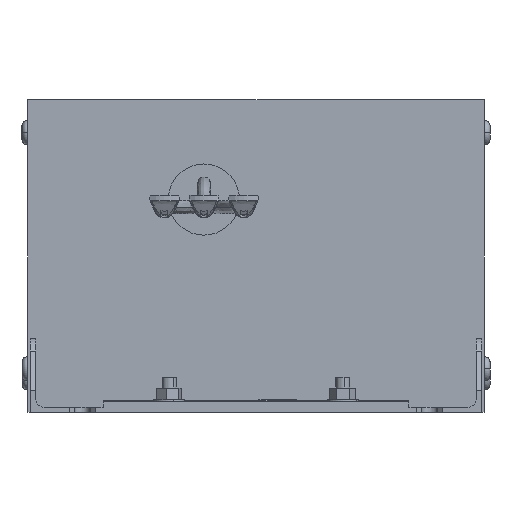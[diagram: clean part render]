
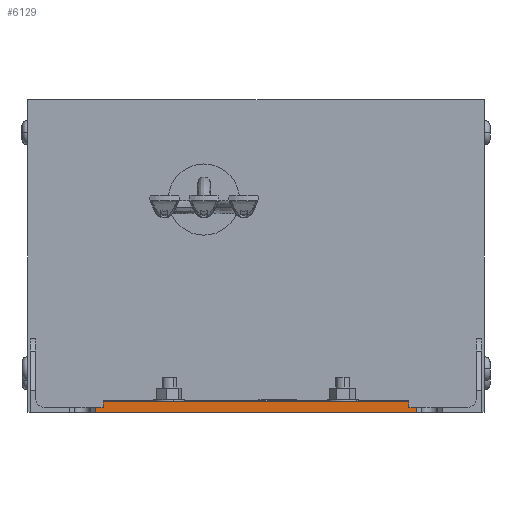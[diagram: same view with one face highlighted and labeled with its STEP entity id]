
A CAD part, front view. The second image highlights one B-rep face of the part: STEP entity #6129.
In plain terms, the highlighted planar face has unit normal (0, -1, 0).
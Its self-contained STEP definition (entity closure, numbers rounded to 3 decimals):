
#1135 = CARTESIAN_POINT ( 'NONE',  ( -92.5, -615., -3. ) ) ;
#1282 = CARTESIAN_POINT ( 'NONE',  ( -92.5, -615., -3. ) ) ;
#1389 = CARTESIAN_POINT ( 'NONE',  ( -88., -615., 3. ) ) ;
#1984 = CARTESIAN_POINT ( 'NONE',  ( -95.5, -615., 0. ) ) ;
#2490 = EDGE_CURVE ( 'NONE', #15702, #10929, #7225, .T. ) ;
#2874 = EDGE_CURVE ( 'NONE', #15702, #5197, #17288, .T. ) ;
#3192 = VERTEX_POINT ( 'NONE', #9227 ) ;
#3569 = CARTESIAN_POINT ( 'NONE',  ( 88., -615., 3. ) ) ;
#3728 = LINE ( 'NONE', #10362, #17619 ) ;
#3794 = VECTOR ( 'NONE', #8088, 1000. ) ;
#4901 = ORIENTED_EDGE ( 'NONE', *, *, #20501, .T. ) ;
#5197 = VERTEX_POINT ( 'NONE', #16920 ) ;
#5528 = AXIS2_PLACEMENT_3D ( 'NONE', #18291, #20847, #22460 ) ;
#6129 = ADVANCED_FACE ( 'NONE', ( #21762 ), #12943, .F. ) ;
#7225 = LINE ( 'NONE', #1984, #15065 ) ;
#8026 = DIRECTION ( 'NONE',  ( 1., 0., 0. ) ) ;
#8088 = DIRECTION ( 'NONE',  ( 1., 0., 0. ) ) ;
#8110 = ORIENTED_EDGE ( 'NONE', *, *, #11594, .T. ) ;
#8242 = VECTOR ( 'NONE', #17397, 1000. ) ;
#8282 = VECTOR ( 'NONE', #11826, 1000. ) ;
#9166 = CARTESIAN_POINT ( 'NONE',  ( 92.5, -615., -3. ) ) ;
#9227 = CARTESIAN_POINT ( 'NONE',  ( -92.5, -615., 0. ) ) ;
#9294 = ORIENTED_EDGE ( 'NONE', *, *, #10661, .T. ) ;
#10102 = VERTEX_POINT ( 'NONE', #10736 ) ;
#10362 = CARTESIAN_POINT ( 'NONE',  ( -88., -615., 3. ) ) ;
#10477 = DIRECTION ( 'NONE',  ( 0., 0., -1. ) ) ;
#10661 = EDGE_CURVE ( 'NONE', #22659, #11730, #18583, .T. ) ;
#10736 = CARTESIAN_POINT ( 'NONE',  ( -88., -615., 3. ) ) ;
#10794 = EDGE_LOOP ( 'NONE', ( #15653, #8110, #13834, #19371, #4901, #9294, #22772, #13439 ) ) ;
#10929 = VERTEX_POINT ( 'NONE', #14261 ) ;
#11068 = EDGE_CURVE ( 'NONE', #3192, #16822, #15054, .T. ) ;
#11594 = EDGE_CURVE ( 'NONE', #5197, #10102, #15767, .T. ) ;
#11730 = VERTEX_POINT ( 'NONE', #16753 ) ;
#11826 = DIRECTION ( 'NONE',  ( 0., 0., -1. ) ) ;
#12386 = DIRECTION ( 'NONE',  ( 0., 0., 1. ) ) ;
#12943 = PLANE ( 'NONE',  #5528 ) ;
#13428 = LINE ( 'NONE', #1135, #8282 ) ;
#13439 = ORIENTED_EDGE ( 'NONE', *, *, #2490, .F. ) ;
#13815 = VECTOR ( 'NONE', #16240, 1000. ) ;
#13834 = ORIENTED_EDGE ( 'NONE', *, *, #15292, .T. ) ;
#14261 = CARTESIAN_POINT ( 'NONE',  ( 92.5, -615., 0. ) ) ;
#14294 = DIRECTION ( 'NONE',  ( 1., 0., 0. ) ) ;
#14932 = CARTESIAN_POINT ( 'NONE',  ( -95.5, -615., 0. ) ) ;
#15054 = LINE ( 'NONE', #14932, #3794 ) ;
#15065 = VECTOR ( 'NONE', #14294, 1000. ) ;
#15273 = VECTOR ( 'NONE', #8026, 1000. ) ;
#15292 = EDGE_CURVE ( 'NONE', #10102, #16822, #3728, .T. ) ;
#15638 = CARTESIAN_POINT ( 'NONE',  ( 88., -615., 0. ) ) ;
#15653 = ORIENTED_EDGE ( 'NONE', *, *, #2874, .T. ) ;
#15702 = VERTEX_POINT ( 'NONE', #15638 ) ;
#15767 = LINE ( 'NONE', #1389, #8242 ) ;
#16135 = LINE ( 'NONE', #9166, #13815 ) ;
#16240 = DIRECTION ( 'NONE',  ( 0., 0., 1. ) ) ;
#16612 = CARTESIAN_POINT ( 'NONE',  ( -95.5, -615., -3. ) ) ;
#16753 = CARTESIAN_POINT ( 'NONE',  ( 92.5, -615., -3. ) ) ;
#16822 = VERTEX_POINT ( 'NONE', #17888 ) ;
#16920 = CARTESIAN_POINT ( 'NONE',  ( 88., -615., 3. ) ) ;
#17288 = LINE ( 'NONE', #3569, #22500 ) ;
#17397 = DIRECTION ( 'NONE',  ( -1., 0., 0. ) ) ;
#17619 = VECTOR ( 'NONE', #10477, 1000. ) ;
#17888 = CARTESIAN_POINT ( 'NONE',  ( -88., -615., 0. ) ) ;
#18291 = CARTESIAN_POINT ( 'NONE',  ( -88., -615., 0. ) ) ;
#18583 = LINE ( 'NONE', #16612, #15273 ) ;
#19070 = EDGE_CURVE ( 'NONE', #11730, #10929, #16135, .T. ) ;
#19371 = ORIENTED_EDGE ( 'NONE', *, *, #11068, .F. ) ;
#20501 = EDGE_CURVE ( 'NONE', #3192, #22659, #13428, .T. ) ;
#20847 = DIRECTION ( 'NONE',  ( 0., 1., 0. ) ) ;
#21762 = FACE_OUTER_BOUND ( 'NONE', #10794, .T. ) ;
#22460 = DIRECTION ( 'NONE',  ( -1., 0., 0. ) ) ;
#22500 = VECTOR ( 'NONE', #12386, 1000. ) ;
#22659 = VERTEX_POINT ( 'NONE', #1282 ) ;
#22772 = ORIENTED_EDGE ( 'NONE', *, *, #19070, .T. ) ;
